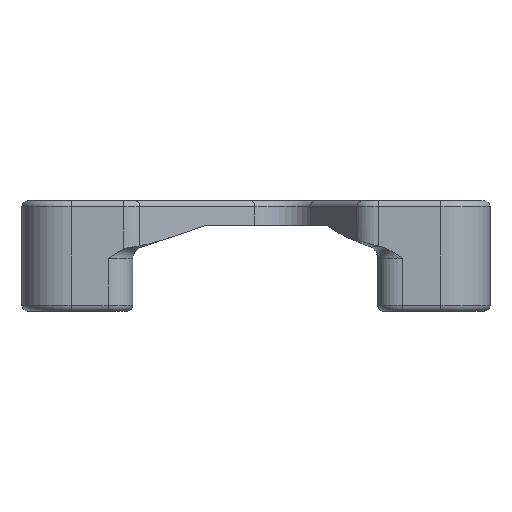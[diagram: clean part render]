
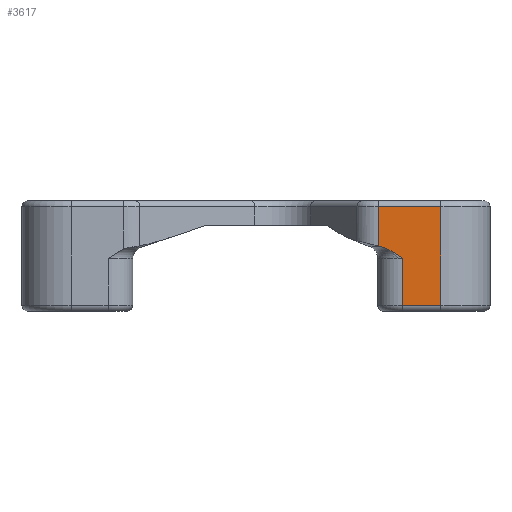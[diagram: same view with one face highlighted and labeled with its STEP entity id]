
A CAD part, left-side view. The second image highlights one B-rep face of the part: STEP entity #3617.
In plain terms, the highlighted planar face has unit normal (-1, 0, 0).
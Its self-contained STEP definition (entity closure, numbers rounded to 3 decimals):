
#20=(
BOUNDED_CURVE()
B_SPLINE_CURVE(2,(#6605,#6606,#6607),.UNSPECIFIED.,.F.,.F.)
B_SPLINE_CURVE_WITH_KNOTS((3,3),(4.75,4.89),
 .UNSPECIFIED.)
CURVE()
GEOMETRIC_REPRESENTATION_ITEM()
RATIONAL_B_SPLINE_CURVE((7.346,7.225,7.091))
REPRESENTATION_ITEM('')
);
#87=PLANE('',#4082);
#181=LINE('',#6456,#364);
#202=LINE('',#6599,#385);
#203=LINE('',#6603,#386);
#204=LINE('',#6616,#387);
#205=LINE('',#6617,#388);
#364=VECTOR('',#4886,10.);
#385=VECTOR('',#5047,10.);
#386=VECTOR('',#5052,10.);
#387=VECTOR('',#5053,10.);
#388=VECTOR('',#5054,10.);
#590=B_SPLINE_CURVE_WITH_KNOTS('',3,(#6609,#6610,#6611,#6612,#6613,#6614),
 .UNSPECIFIED.,.F.,.F.,(4,2,4),(0.,0.146,0.184),
 .UNSPECIFIED.);
#743=FACE_OUTER_BOUND('',#993,.T.);
#993=EDGE_LOOP('',(#2915,#2916,#2917,#2918,#2919,#2920,#2921));
#1599=VERTEX_POINT('',#6450);
#1600=VERTEX_POINT('',#6454);
#1630=VERTEX_POINT('',#6598);
#1631=VERTEX_POINT('',#6602);
#1632=VERTEX_POINT('',#6604);
#1633=VERTEX_POINT('',#6608);
#1634=VERTEX_POINT('',#6615);
#2019=EDGE_CURVE('',#1599,#1600,#181,.T.);
#2082=EDGE_CURVE('',#1600,#1630,#202,.T.);
#2084=EDGE_CURVE('',#1631,#1599,#203,.T.);
#2085=EDGE_CURVE('',#1632,#1631,#20,.T.);
#2086=EDGE_CURVE('',#1633,#1632,#590,.T.);
#2087=EDGE_CURVE('',#1634,#1633,#204,.T.);
#2088=EDGE_CURVE('',#1630,#1634,#205,.T.);
#2915=ORIENTED_EDGE('',*,*,#2019,.F.);
#2916=ORIENTED_EDGE('',*,*,#2084,.F.);
#2917=ORIENTED_EDGE('',*,*,#2085,.F.);
#2918=ORIENTED_EDGE('',*,*,#2086,.F.);
#2919=ORIENTED_EDGE('',*,*,#2087,.F.);
#2920=ORIENTED_EDGE('',*,*,#2088,.F.);
#2921=ORIENTED_EDGE('',*,*,#2082,.F.);
#3617=ADVANCED_FACE('',(#743),#87,.T.);
#4082=AXIS2_PLACEMENT_3D('',#6601,#5050,#5051);
#4886=DIRECTION('',(0.,-1.,0.));
#5047=DIRECTION('',(0.,0.,-1.));
#5050=DIRECTION('center_axis',(-1.,0.,0.));
#5051=DIRECTION('ref_axis',(0.,-1.,0.));
#5052=DIRECTION('',(0.,0.,1.));
#5053=DIRECTION('',(0.,0.,1.));
#5054=DIRECTION('',(0.,1.,0.));
#6450=CARTESIAN_POINT('',(28.375,88.108,7.85));
#6454=CARTESIAN_POINT('',(28.375,83.021,7.85));
#6456=CARTESIAN_POINT('',(28.375,107.557,7.85));
#6598=CARTESIAN_POINT('',(28.375,83.021,-0.15));
#6599=CARTESIAN_POINT('',(28.375,83.021,-0.65));
#6601=CARTESIAN_POINT('Origin',(28.375,117.069,-0.65));
#6602=CARTESIAN_POINT('',(28.375,88.108,4.668));
#6603=CARTESIAN_POINT('',(28.375,88.108,3.85));
#6604=CARTESIAN_POINT('',(28.375,87.862,4.601));
#6605=CARTESIAN_POINT('Ctrl Pts',(28.375,87.862,4.601));
#6606=CARTESIAN_POINT('Ctrl Pts',(28.375,87.981,4.632));
#6607=CARTESIAN_POINT('Ctrl Pts',(28.375,88.108,4.668));
#6608=CARTESIAN_POINT('',(28.375,86.156,3.673));
#6609=CARTESIAN_POINT('Ctrl Pts',(28.375,86.156,3.673));
#6610=CARTESIAN_POINT('Ctrl Pts',(28.375,86.553,3.953));
#6611=CARTESIAN_POINT('Ctrl Pts',(28.375,87.032,4.285));
#6612=CARTESIAN_POINT('Ctrl Pts',(28.375,87.598,4.521));
#6613=CARTESIAN_POINT('Ctrl Pts',(28.375,87.728,4.567));
#6614=CARTESIAN_POINT('Ctrl Pts',(28.375,87.862,4.601));
#6615=CARTESIAN_POINT('',(28.375,86.156,-0.15));
#6616=CARTESIAN_POINT('',(28.375,86.156,-0.65));
#6617=CARTESIAN_POINT('',(28.375,107.557,-0.15));
